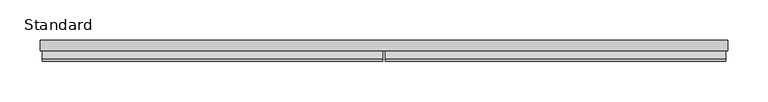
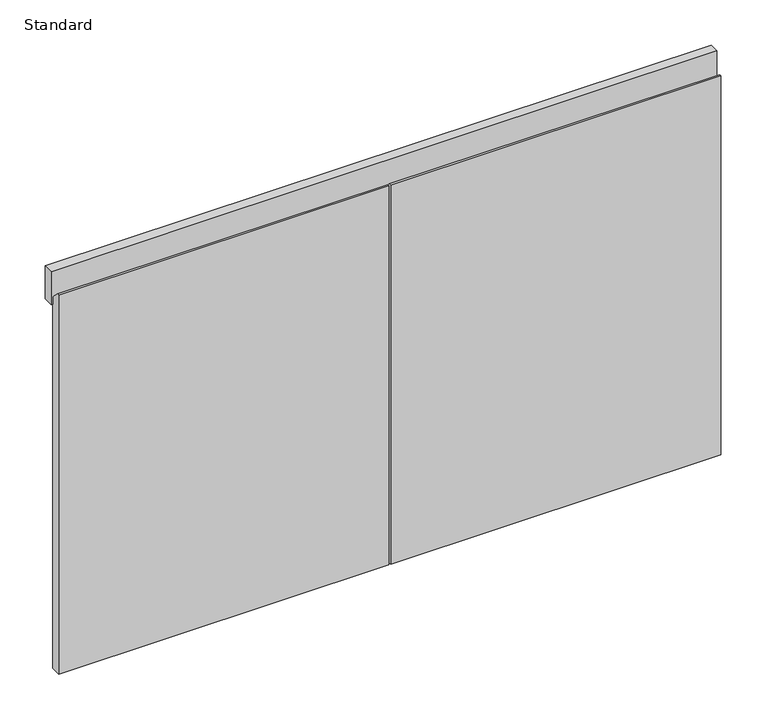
"""IFC4 building model written with IfcOpenShell, lengths in millimetres: furniture geometry, X_Partition-Compact Laminate-Duracube-Vanity Door : Standard."""

import ifcopenshell
import ifcopenshell.guid

model = None  # the IFC model being written
_history = None  # IfcOwnerHistory: only IFC2X3 demands one
_inside = {}  # id of a spatial element -> (the spatial element, [elements in it])
_under = {}  # id of a project, library or spatial element -> (it, [spatial elements below it])
_declared = {}  # id of a project -> (the project, [libraries it declares])
_typed = {}  # id of a type object -> (the type object, [elements of that type])
_made_of = {}  # id of a material, layer set ... -> (it, [elements and type objects made of it])


def new_model(schema):
    """Start an empty IFC model of exactly this schema.

    Asked for "IFC4X3", IfcOpenShell would pick the latest addendum, in which some entities
    have other attributes; the version numbers below select the first issue.
    IFC2X3 requires an IfcOwnerHistory on every rooted entity: one is made here for all.
    """
    global model, _history
    if schema == "IFC4X3":
        model = ifcopenshell.file(schema_version=(4, 3, 0, 0))
    else:
        model = ifcopenshell.file(schema=schema)
    _inside.clear()
    _under.clear()
    _declared.clear()
    _typed.clear()
    _made_of.clear()
    _history = None
    if model.schema == "IFC2X3":
        org = make("IfcOrganization", Name="unknown")
        user = make(
            "IfcPersonAndOrganization",
            ThePerson=make("IfcPerson", FamilyName="unknown"),
            TheOrganization=org,
        )
        app = make(
            "IfcApplication",
            ApplicationDeveloper=org,
            Version="unknown",
            ApplicationFullName="unknown",
            ApplicationIdentifier="unknown",
        )
        _history = make(
            "IfcOwnerHistory",
            OwningUser=user,
            OwningApplication=app,
            ChangeAction="ADDED",
            CreationDate=0,
        )
    return model


def make(cls, **values):
    """One entity of the class cls with the attributes given. An attribute that is None is left unset."""
    return model.create_entity(
        cls, **{name: value for name, value in values.items() if value is not None}
    )


def rooted(cls, **values):
    """An entity with a GlobalId (a new one), such as an element, a storey or a relation."""
    return make(cls, GlobalId=ifcopenshell.guid.new(), OwnerHistory=_history, **values)


def si_unit(unit_type, name, prefix=None):
    """IfcSIUnit, for example si_unit("LENGTHUNIT", "METRE", prefix="MILLI")."""
    return make("IfcSIUnit", UnitType=unit_type, Prefix=prefix, Name=name)


def assignment(units):
    """IfcUnitAssignment: the units of a project."""
    return None if units is None else make("IfcUnitAssignment", Units=units)


def point(xyz):
    """IfcCartesianPoint."""
    return None if xyz is None else make("IfcCartesianPoint", Coordinates=xyz)


def direction(xyz):
    """IfcDirection."""
    return None if xyz is None else make("IfcDirection", DirectionRatios=xyz)


def frame(location, z_axis=None, x_axis=None):
    """IfcAxis2Placement3D, a coordinate frame: its origin and axes. An axis left out is left unset."""
    return make(
        "IfcAxis2Placement3D",
        Location=point(location),
        Axis=direction(z_axis),
        RefDirection=direction(x_axis),
    )


def origin():
    """The frame at (0, 0, 0) with its axes left unset."""
    return frame((0.0, 0.0, 0.0))


def place(relative_to, where):
    """IfcLocalPlacement: puts the frame where relative to a parent placement (None: the world)."""
    return make(
        "IfcLocalPlacement", PlacementRelTo=relative_to, RelativePlacement=where
    )


def context(
    kind, dimensions, precision=None, world=None, true_north=None, identifier=None
):
    """IfcGeometricRepresentationContext, for example the 3D "Model" context."""
    return make(
        "IfcGeometricRepresentationContext",
        ContextIdentifier=identifier,
        ContextType=kind,
        CoordinateSpaceDimension=dimensions,
        Precision=precision,
        WorldCoordinateSystem=world,
        TrueNorth=true_north,
    )


def project(units=None, contexts=None):
    """IfcProject with its units and contexts."""
    return rooted(
        "IfcProject",
        Name="project",
        RepresentationContexts=contexts,
        UnitsInContext=assignment(units),
    )


def spatial(cls, under=None, at=None, **own):
    """A site, building, storey or space (cls), placed at a placement, below another one or the project."""
    s = rooted(cls, ObjectPlacement=at, **own)
    if under is not None:
        _under.setdefault(under.id(), (under, []))[1].append(s)
    return s


def polyline(points):
    """IfcPolyline through the points."""
    return make("IfcPolyline", Points=[point(p) for p in points])


def outline(outer, holes=None, kind="AREA"):
    """IfcArbitraryClosedProfileDef: a profile drawn as a closed curve; with holes, ...WithVoids."""
    if holes is None:
        return make("IfcArbitraryClosedProfileDef", ProfileType=kind, OuterCurve=outer)
    return make(
        "IfcArbitraryProfileDefWithVoids",
        ProfileType=kind,
        OuterCurve=outer,
        InnerCurves=holes,
    )


def extrude(swept, where, along, depth):
    """IfcExtrudedAreaSolid: the profile swept, set in the frame where, extruded along a direction by depth."""
    return make(
        "IfcExtrudedAreaSolid",
        SweptArea=swept,
        Position=where,
        ExtrudedDirection=direction(along),
        Depth=depth,
    )


def shape(context_of_items, identifier, shape_type, items):
    """IfcShapeRepresentation: the items that make up one representation, for example the "Body"."""
    return make(
        "IfcShapeRepresentation",
        ContextOfItems=context_of_items,
        RepresentationIdentifier=identifier,
        RepresentationType=shape_type,
        Items=items,
    )


def source(mapping_origin, context_of_items, identifier, shape_type, items):
    """IfcRepresentationMap: a shape defined once, which mapped items show again and again."""
    return make(
        "IfcRepresentationMap",
        MappingOrigin=mapping_origin,
        MappedRepresentation=shape(context_of_items, identifier, shape_type, items),
    )


def transform(
    local_origin,
    x_axis=None,
    y_axis=None,
    z_axis=None,
    scale=None,
    scale2=None,
    scale3=None,
    uniform=True,
):
    """IfcCartesianTransformationOperator3D, or its non-uniform kind. x_axis, y_axis, z_axis: its Axis1, 2, 3."""
    if uniform:
        return make(
            "IfcCartesianTransformationOperator3D",
            Axis1=direction(x_axis),
            Axis2=direction(y_axis),
            LocalOrigin=point(local_origin),
            Scale=scale,
            Axis3=direction(z_axis),
        )
    return make(
        "IfcCartesianTransformationOperator3DnonUniform",
        Axis1=direction(x_axis),
        Axis2=direction(y_axis),
        LocalOrigin=point(local_origin),
        Scale=scale,
        Axis3=direction(z_axis),
        Scale2=scale2,
        Scale3=scale3,
    )


def mapped(mapping_source, mapping_target):
    """IfcMappedItem: shows the shape of a source again, moved by a transform."""
    return make(
        "IfcMappedItem", MappingSource=mapping_source, MappingTarget=mapping_target
    )


def made_of(thing, what):
    """Note that an element or type object is made of a material, layer set ...; save() writes the relation."""
    if what is not None:
        _made_of.setdefault(what.id(), (what, []))[1].append(thing)
    return thing


def element(
    cls,
    number,
    at=None,
    inside=None,
    cuts=None,
    type_object=None,
    material=None,
    context=None,
    identifier="Body",
    shape_type=None,
    held_by="IfcProductDefinitionShape",
    body=None,
    shapes=None,
    **own,
):
    """One element of the class cls, such as IfcWall. Its Tag is "e" and its number.

    at: its placement. inside: the storey or other place that contains it. cuts: it is an
    opening in that element (IfcRelVoidsElement). A single representation is given by context,
    identifier, shape_type and body (its items); several are given by shapes. held_by: the class
    of the entity that holds the representations. save() writes the other relations.
    """
    e = rooted(cls, Tag="e%d" % number, ObjectPlacement=at, **own)
    if body is not None:
        shapes = [shape(context, identifier, shape_type, body)]
    if shapes is not None:
        e.Representation = make(held_by, Representations=shapes)
    if inside is not None:
        _inside.setdefault(inside.id(), (inside, []))[1].append(e)
    if cuts is not None:
        rooted(
            "IfcRelVoidsElement", RelatingBuildingElement=cuts, RelatedOpeningElement=e
        )
    if type_object is not None:
        _typed.setdefault(type_object.id(), (type_object, []))[1].append(e)
    return made_of(e, material)


def aggregate(whole, parts):
    """IfcRelAggregates: a whole, such as a stair, and the parts it consists of."""
    return rooted("IfcRelAggregates", RelatingObject=whole, RelatedObjects=parts)


def save(model, path):
    """Write the relations noted so far, then the file.

    IfcRelAggregates (storeys below a building ...), IfcRelContainedInSpatialStructure (elements
    in a storey), IfcRelDefinesByType, IfcRelAssociatesMaterial and IfcRelDeclares: one each for
    every whole, place, type object, material and project.
    """
    for whole, parts in _under.values():
        aggregate(whole, parts)
    for where, things in _inside.values():
        rooted(
            "IfcRelContainedInSpatialStructure",
            RelatedElements=things,
            RelatingStructure=where,
        )
    for kind, things in _typed.values():
        rooted("IfcRelDefinesByType", RelatedObjects=things, RelatingType=kind)
    for what, things in _made_of.values():
        rooted("IfcRelAssociatesMaterial", RelatedObjects=things, RelatingMaterial=what)
    for by, libraries in _declared.values():
        rooted("IfcRelDeclares", RelatingContext=by, RelatedDefinitions=libraries)
    model.write(path)


def standard_4d3d5fd2(model_context):
    return source(origin(), model_context, "Body", "SweptSolid", [
        extrude(outline(polyline([(470.3669931, 13.0), (470.3669931, 0.0), (-380.9663402, 0.0), (-380.9663402, 13.0), (470.3669931, 13.0)])), frame((0.0, 0.0, 792.0), z_axis=(0.0, 0.0, 1.0), x_axis=(1.0, 0.0, 0.0)), (0.0, 0.0, 1.0), 45.0),
        extrude(outline(polyline([(-13.0, 812.0), (-10.0, 812.0), (0.0, 802.0), (0.0, 300.0), (-13.0, 300.0), (-13.0, 812.0)])), frame((-378.4663402, 0.0, 0.0), z_axis=(1.0, 0.0, 0.0), x_axis=(0.0, 1.0, 0.0)), (0.0, 0.0, 1.0), 421.9166667),
        extrude(outline(polyline([(-13.0, 812.0), (-10.0, 812.0), (0.0, 802.0), (0.0, 300.0), (-13.0, 300.0), (-13.0, 812.0)])), frame((45.9503264, 0.0, 0.0), z_axis=(1.0, 0.0, 0.0), x_axis=(0.0, 1.0, 0.0)), (0.0, 0.0, 1.0), 421.9166667),
    ])


if __name__ == "__main__":
    model = new_model("IFC4")
    model_context = context("Model", 3, world=origin())
    ifc_project = project(units=[si_unit("LENGTHUNIT", "METRE", prefix="MILLI")], contexts=[model_context])
    site = spatial("IfcSite", under=ifc_project)
    building = spatial("IfcBuilding", under=site)
    placement = place(None, origin())
    standard_shape = standard_4d3d5fd2(model_context)
    element("IfcFurniture", 1, ObjectType="X_Partition-Compact Laminate-Duracube-Vanity Door : Standard", at=placement, inside=building, context=model_context, shape_type="MappedRepresentation", body=[
        mapped(standard_shape, transform((0.0, 0.0, 0.0), x_axis=(1.0, 0.0, 0.0), y_axis=(0.0, 1.0, 0.0), z_axis=(0.0, 0.0, 1.0))),
    ])
    save(model, "model.ifc")
